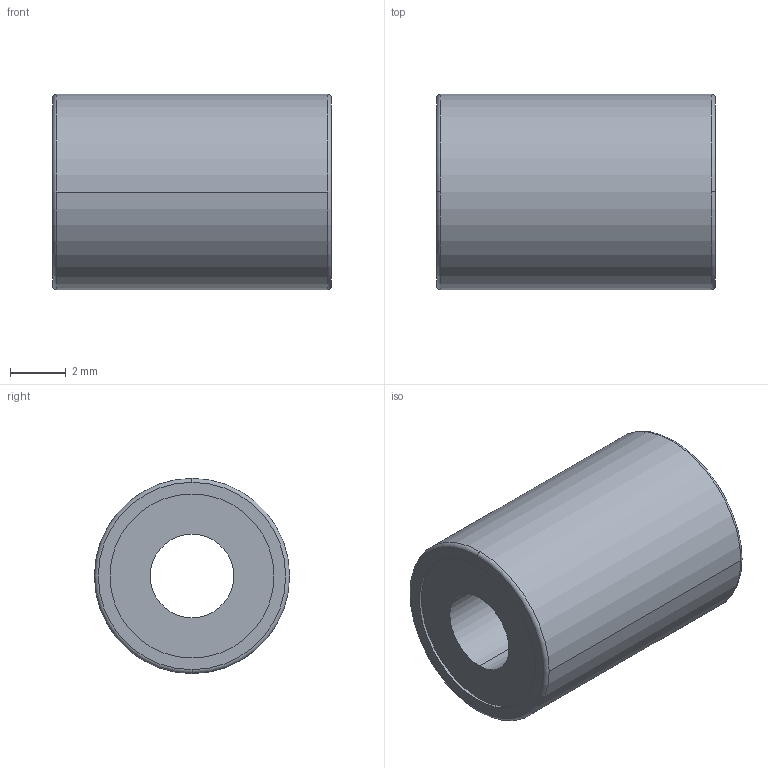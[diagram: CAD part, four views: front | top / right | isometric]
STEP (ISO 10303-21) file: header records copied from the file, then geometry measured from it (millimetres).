
FILE_DESCRIPTION(('FreeCAD Model'),'2;1');
FILE_NAME('Open CASCADE Shape Model','2021-05-03T10:48:22',('Author'),( ''),'Open CASCADE STEP processor 7.5','FreeCAD','Unknown');
FILE_SCHEMA(('AUTOMOTIVE_DESIGN { 1 0 10303 214 1 1 1 1 }'));
Length unit declared in the file: millimetre
Products named in the file (1): ball_bearing_lm3
Bounding box: 10 x 7 x 7 mm (x, y, z)
Volume: 310 mm3; surface area: 376.1 mm2
Topology: 1 solids, 1 shells, 16 faces, 38 edges, 26 vertices
Faces by surface type: cylinder 8, torus 4, plane 4
Entity records: 1153 total; most frequent: CARTESIAN_POINT 247, DIRECTION 163, ORIENTED_EDGE 76, PCURVE 76, DEFINITIONAL_REPRESENTATION 76, LINE 66, VECTOR 66, AXIS2_PLACEMENT_3D 47
